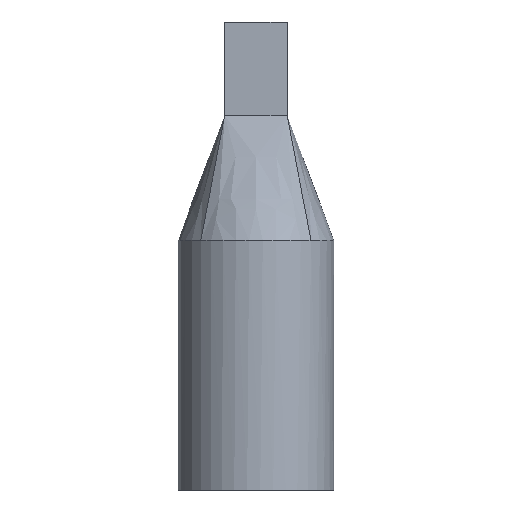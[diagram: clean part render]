
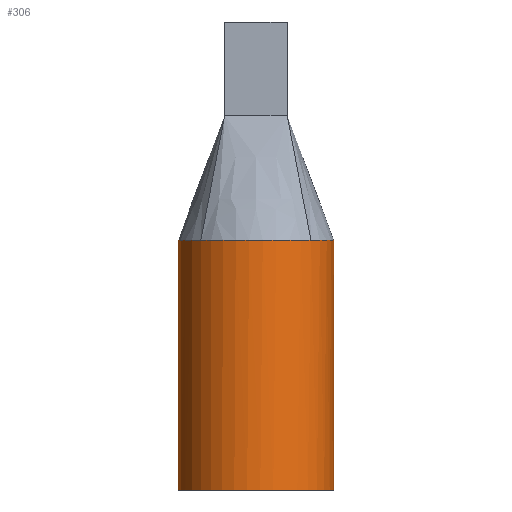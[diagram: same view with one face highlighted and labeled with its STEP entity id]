
A CAD part, front view. The second image highlights one B-rep face of the part: STEP entity #306.
In plain terms, the highlighted cylindrical face has radius 12.5 mm (diameter 25 mm), a full revolution.
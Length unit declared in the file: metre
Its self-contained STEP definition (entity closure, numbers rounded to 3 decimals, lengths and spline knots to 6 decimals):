
#78=ORIENTED_EDGE('',*,*,#164,.F.);
#79=ORIENTED_EDGE('',*,*,#165,.F.);
#80=ORIENTED_EDGE('',*,*,#166,.F.);
#81=ORIENTED_EDGE('',*,*,#167,.F.);
#82=ORIENTED_EDGE('',*,*,#168,.T.);
#164=EDGE_CURVE('',#207,#208,#236,.T.);
#165=EDGE_CURVE('',#209,#207,#237,.T.);
#166=EDGE_CURVE('',#210,#209,#238,.T.);
#167=EDGE_CURVE('',#208,#210,#239,.T.);
#168=EDGE_CURVE('',#211,#211,#240,.T.);
#207=VERTEX_POINT('',#433);
#208=VERTEX_POINT('',#434);
#209=VERTEX_POINT('',#436);
#210=VERTEX_POINT('',#438);
#211=VERTEX_POINT('',#441);
#236=CIRCLE('',#342,0.0125);
#237=CIRCLE('',#343,0.0125);
#238=CIRCLE('',#344,0.0125);
#239=CIRCLE('',#345,0.0125);
#240=CIRCLE('',#346,0.0125);
#247=EDGE_LOOP('',(#78,#79,#80,#81));
#248=EDGE_LOOP('',(#82));
#275=FACE_BOUND('',#247,.T.);
#276=FACE_BOUND('',#248,.T.);
#302=CYLINDRICAL_SURFACE('',#341,0.0125);
#306=ADVANCED_FACE('',(#275,#276),#302,.T.);
#341=AXIS2_PLACEMENT_3D('',#431,#369,#370);
#342=AXIS2_PLACEMENT_3D('',#432,#371,#372);
#343=AXIS2_PLACEMENT_3D('',#435,#373,#374);
#344=AXIS2_PLACEMENT_3D('',#437,#375,#376);
#345=AXIS2_PLACEMENT_3D('',#439,#377,#378);
#346=AXIS2_PLACEMENT_3D('',#440,#379,#380);
#369=DIRECTION('',(0.,0.,-1.));
#370=DIRECTION('',(-1.,0.,0.));
#371=DIRECTION('',(0.,0.,1.));
#372=DIRECTION('',(1.,0.,0.));
#373=DIRECTION('',(0.,0.,1.));
#374=DIRECTION('',(1.,0.,0.));
#375=DIRECTION('',(0.,0.,1.));
#376=DIRECTION('',(1.,0.,0.));
#377=DIRECTION('',(0.,0.,1.));
#378=DIRECTION('',(1.,0.,0.));
#379=DIRECTION('',(0.,0.,1.));
#380=DIRECTION('',(1.,0.,0.));
#431=CARTESIAN_POINT('',(0.,0.,0.04));
#432=CARTESIAN_POINT('',(0.,0.,0.04));
#433=CARTESIAN_POINT('',(0.008839,0.008839,0.04));
#434=CARTESIAN_POINT('',(-0.008839,0.008839,0.04));
#435=CARTESIAN_POINT('',(0.,0.,0.04));
#436=CARTESIAN_POINT('',(0.008839,-0.008839,0.04));
#437=CARTESIAN_POINT('',(0.,0.,0.04));
#438=CARTESIAN_POINT('',(-0.008839,-0.008839,0.04));
#439=CARTESIAN_POINT('',(0.,0.,0.04));
#440=CARTESIAN_POINT('',(0.,0.,0.));
#441=CARTESIAN_POINT('',(0.0125,0.,0.));
